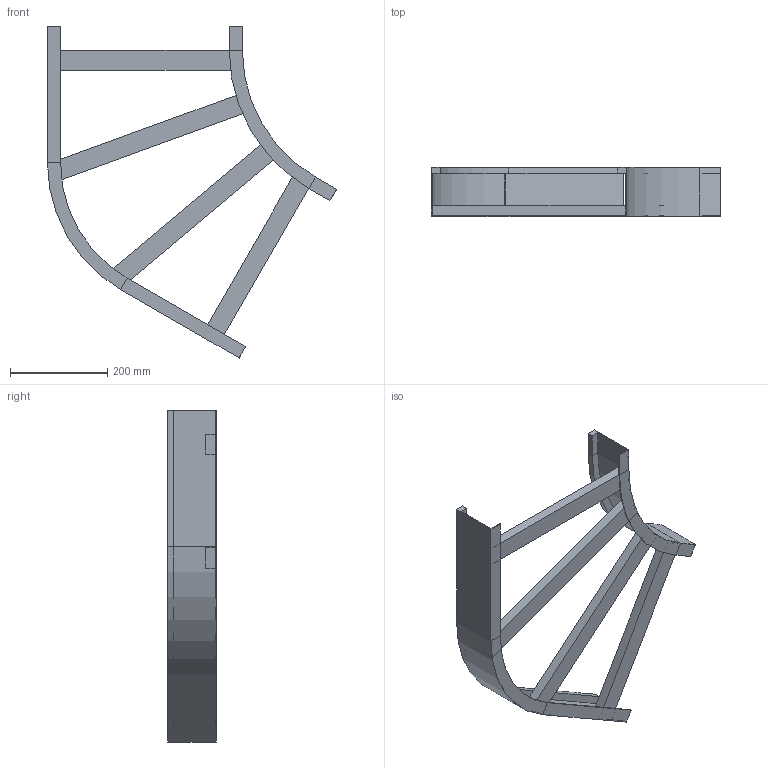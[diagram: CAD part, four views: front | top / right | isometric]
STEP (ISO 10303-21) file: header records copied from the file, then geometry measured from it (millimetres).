
FILE_DESCRIPTION (( 'STEP AP214' ), '1' );
FILE_NAME ('B2_13B3D400.step', '2025-02-21T15:18:19', ( '' ), ( '' ), 'SwSTEP 2.0', 'SolidWorks 2023', '' );
FILE_SCHEMA (( 'AUTOMOTIVE_DESIGN' ));
Length unit declared in the file: millimetre
Products named in the file (5): B2_LONGH.ESTERNO 60°_H100_R300+400; TRAVERSINO_500_SCANTONATO; TRAVERSINO_400; B2_13B3D400; B2_LONGH.INTERNO 60°_H100_R300
Assembly tree (6 placements, depth 2):
  B2_13B3D400
    B2_LONGH.INTERNO 60°_H100_R300
    B2_LONGH.ESTERNO 60°_H100_R300+400
    TRAVERSINO_400  x2
    TRAVERSINO_500_SCANTONATO  x2
Bounding box: 593.3 x 100 x 681.22 mm (x, y, z)
Volume: 1924223.7 mm3; surface area: 579564.8 mm2
Topology: 6 solids, 6 shells, 76 faces, 160 edges, 96 vertices
Faces by surface type: plane 68, cylinder 8
Entity records: 1830 total; most frequent: DIRECTION 298, CARTESIAN_POINT 289, ORIENTED_EDGE 272, EDGE_CURVE 136, LINE 120, VECTOR 120, AXIS2_PLACEMENT_3D 89, VERTEX_POINT 80
